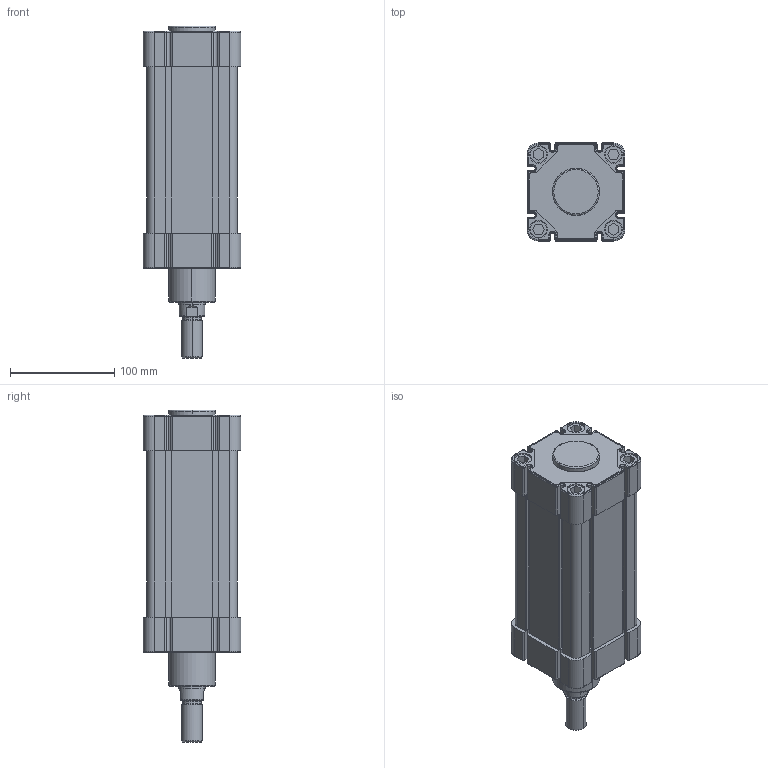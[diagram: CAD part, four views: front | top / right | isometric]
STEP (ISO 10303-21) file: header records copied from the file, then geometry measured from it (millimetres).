
FILE_DESCRIPTION((''),'2;1');
FILE_NAME('N11M20800100.stp','2010-01-06T11:52:16',('B. Petkovic 2010'),('AZ PNEUMATICA S.r.l.'),'Mechanical Desktop 2006','Mechanical Desktop 2006','Via Marco Biagi 6, I-20020 Misinto(MI) Italy, azpneu@tin.it');
FILE_SCHEMA(('CONFIG_CONTROL_DESIGN'));
Length unit declared in the file: millimetre
Products named in the file (2): N11M20630100; CILINDAR
Assembly tree (1 placements, depth 2):
  N11M20630100
    CILINDAR
Bounding box: 94 x 94 x 319 mm (x, y, z)
Volume: 1786028.1 mm3; surface area: 156369.8 mm2
Topology: 1 solids, 1 shells, 680 faces, 1749 edges, 1112 vertices
Faces by surface type: cylinder 312, plane 288, torus 40, bspline 36, cone 4
Entity records: 22402 total; most frequent: CARTESIAN_POINT 5227, DIRECTION 3801, ORIENTED_EDGE 3498, EDGE_CURVE 1749, AXIS2_PLACEMENT_3D 1410, VERTEX_POINT 1112, VECTOR 981, LINE 981
